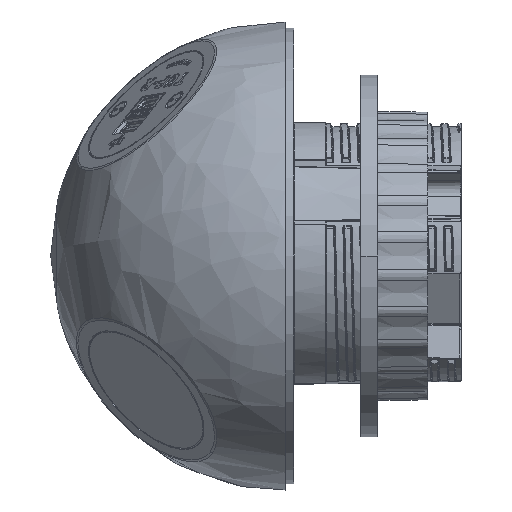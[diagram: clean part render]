
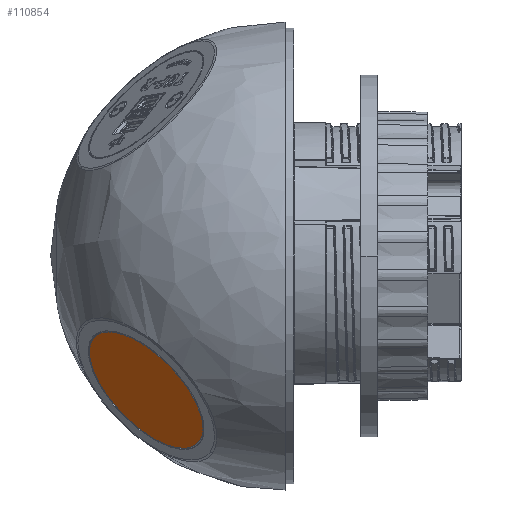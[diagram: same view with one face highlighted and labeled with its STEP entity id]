
A CAD part, left-side view. The second image highlights one B-rep face of the part: STEP entity #110854.
In plain terms, the highlighted planar face has unit normal (-0.45, 0.643, -0.62).
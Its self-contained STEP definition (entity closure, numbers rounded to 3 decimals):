
#9465 = CARTESIAN_POINT ( 'NONE',  ( -17.198, 81.413, -9.868 ) ) ;
#16730 = CARTESIAN_POINT ( 'NONE',  ( -2.159, 26.546, -77.701 ) ) ;
#17866 = PLANE ( 'NONE',  #104534 ) ;
#19656 = DIRECTION ( 'NONE',  ( 0.45, -0.643, 0.62 ) ) ;
#20436 = CARTESIAN_POINT ( 'NONE',  ( -9.678, 53.979, -43.785 ) ) ;
#24340 = VERTEX_POINT ( 'NONE', #26835 ) ;
#26835 = CARTESIAN_POINT ( 'NONE',  ( -9.678, 53.979, -43.785 ) ) ;
#28565 = CARTESIAN_POINT ( 'NONE',  ( -40.962, 6.614, -70.182 ) ) ;
#30346 = CARTESIAN_POINT ( 'NONE',  ( -48.481, 34.048, -36.265 ) ) ;
#34052 = CARTESIAN_POINT ( 'NONE',  ( -56.001, 61.481, -2.349 ) ) ;
#37297 = ORIENTED_EDGE ( 'NONE', *, *, #128479, .F. ) ;
#37688 = VERTEX_POINT ( 'NONE', #69000 ) ;
#43974 = CARTESIAN_POINT ( 'NONE',  ( -9.678, 53.979, -43.785 ) ) ;
#47167 =( BOUNDED_CURVE ( )  B_SPLINE_CURVE ( 3, ( #30346, #28565, #16730, #43974 ),
 .UNSPECIFIED., .F., .T. ) 
 B_SPLINE_CURVE_WITH_KNOTS ( ( 4, 4 ),
 ( 0., 0.5 ),
 .UNSPECIFIED. ) 
 CURVE ( )  GEOMETRIC_REPRESENTATION_ITEM ( )  RATIONAL_B_SPLINE_CURVE ( ( 1., 0.333, 0.333, 1. ) ) 
 REPRESENTATION_ITEM ( '' )  );
#69000 = CARTESIAN_POINT ( 'NONE',  ( -48.481, 34.048, -36.265 ) ) ;
#74223 = DIRECTION ( 'NONE',  ( -0.877, -0.45, 0.17 ) ) ;
#92244 = CARTESIAN_POINT ( 'NONE',  ( -48.481, 34.048, -36.265 ) ) ;
#104534 = AXIS2_PLACEMENT_3D ( 'NONE', #172424, #19656, #74223 ) ;
#110854 = ADVANCED_FACE ( 'NONE', ( #145114 ), #17866, .F. ) ;
#120458 =( BOUNDED_CURVE ( )  B_SPLINE_CURVE ( 3, ( #20436, #9465, #34052, #92244 ),
 .UNSPECIFIED., .F., .T. ) 
 B_SPLINE_CURVE_WITH_KNOTS ( ( 4, 4 ),
 ( 0.5, 1. ),
 .UNSPECIFIED. ) 
 CURVE ( )  GEOMETRIC_REPRESENTATION_ITEM ( )  RATIONAL_B_SPLINE_CURVE ( ( 1., 0.333, 0.333, 1. ) ) 
 REPRESENTATION_ITEM ( '' )  );
#123340 = ORIENTED_EDGE ( 'NONE', *, *, #136619, .F. ) ;
#128479 = EDGE_CURVE ( 'NONE', #24340, #37688, #120458, .T. ) ;
#136619 = EDGE_CURVE ( 'NONE', #37688, #24340, #47167, .T. ) ;
#145114 = FACE_OUTER_BOUND ( 'NONE', #145423, .T. ) ;
#145423 = EDGE_LOOP ( 'NONE', ( #123340, #37297 ) ) ;
#172424 = CARTESIAN_POINT ( 'NONE',  ( -29.08, 44.013, -40.025 ) ) ;
